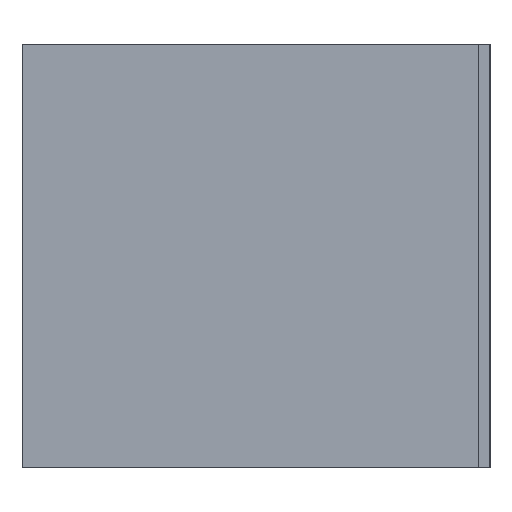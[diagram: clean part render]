
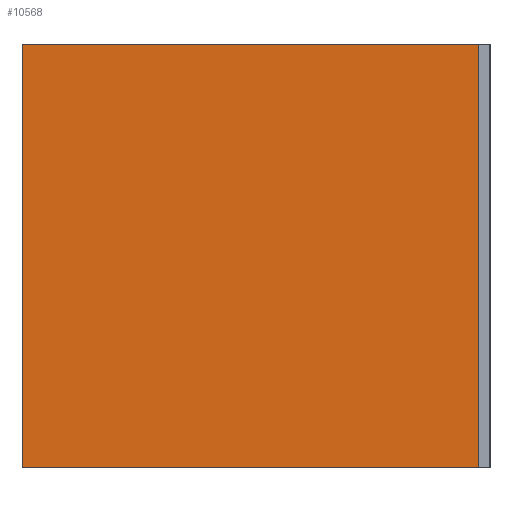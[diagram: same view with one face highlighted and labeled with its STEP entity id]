
A CAD part, left-side view. The second image highlights one B-rep face of the part: STEP entity #10568.
In plain terms, the highlighted planar face has unit normal (-1, 0, 0).
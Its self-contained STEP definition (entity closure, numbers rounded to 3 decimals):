
#34 = FACE_OUTER_BOUND ( 'NONE', #11758, .T. ) ;
#894 = DIRECTION ( 'NONE',  ( 0., 0., 1. ) ) ;
#998 = EDGE_CURVE ( 'NONE', #12781, #4134, #7265, .T. ) ;
#1022 = EDGE_CURVE ( 'NONE', #9691, #12781, #7230, .T. ) ;
#1026 = EDGE_CURVE ( 'NONE', #9250, #9691, #7219, .T. ) ;
#1042 = EDGE_CURVE ( 'NONE', #4134, #9250, #1308, .T. ) ;
#1308 = LINE ( 'NONE', #7758, #1339 ) ;
#1339 = VECTOR ( 'NONE', #9984, 1000. ) ;
#1771 = CARTESIAN_POINT ( 'NONE',  ( 0., 24.25, -22.5 ) ) ;
#3990 = CARTESIAN_POINT ( 'NONE',  ( 0., -24.25, -22.5 ) ) ;
#4134 = VERTEX_POINT ( 'NONE', #6520 ) ;
#4732 = AXIS2_PLACEMENT_3D ( 'NONE', #6561, #6549, #6529 ) ;
#4775 = CARTESIAN_POINT ( 'NONE',  ( 0., 24.25, 22.5 ) ) ;
#4834 = ORIENTED_EDGE ( 'NONE', *, *, #1026, .F. ) ;
#4973 = ORIENTED_EDGE ( 'NONE', *, *, #998, .F. ) ;
#5288 = CARTESIAN_POINT ( 'NONE',  ( 0., 24.25, -22.5 ) ) ;
#5678 = CARTESIAN_POINT ( 'NONE',  ( 0., 24.25, 22.5 ) ) ;
#6520 = CARTESIAN_POINT ( 'NONE',  ( 0., -24.25, 22.5 ) ) ;
#6529 = DIRECTION ( 'NONE',  ( 0., 0., -1. ) ) ;
#6549 = DIRECTION ( 'NONE',  ( -1., 0., 0. ) ) ;
#6561 = CARTESIAN_POINT ( 'NONE',  ( 0., -24.25, 22.5 ) ) ;
#6688 = PLANE ( 'NONE',  #4732 ) ;
#7131 = ORIENTED_EDGE ( 'NONE', *, *, #1022, .F. ) ;
#7219 = LINE ( 'NONE', #1771, #12019 ) ;
#7226 = CARTESIAN_POINT ( 'NONE',  ( 0., 24.25, -22.5 ) ) ;
#7230 = LINE ( 'NONE', #5288, #7243 ) ;
#7243 = VECTOR ( 'NONE', #894, 1000. ) ;
#7256 = VECTOR ( 'NONE', #12581, 1000. ) ;
#7265 = LINE ( 'NONE', #4775, #7256 ) ;
#7758 = CARTESIAN_POINT ( 'NONE',  ( 0., -24.25, -22.5 ) ) ;
#9250 = VERTEX_POINT ( 'NONE', #3990 ) ;
#9691 = VERTEX_POINT ( 'NONE', #7226 ) ;
#9900 = ORIENTED_EDGE ( 'NONE', *, *, #1042, .F. ) ;
#9984 = DIRECTION ( 'NONE',  ( 0., 0., -1. ) ) ;
#10568 = ADVANCED_FACE ( 'NONE', ( #34 ), #6688, .T. ) ;
#11758 = EDGE_LOOP ( 'NONE', ( #4973, #7131, #4834, #9900 ) ) ;
#12019 = VECTOR ( 'NONE', #13636, 1000. ) ;
#12581 = DIRECTION ( 'NONE',  ( 0., -1., 0. ) ) ;
#12781 = VERTEX_POINT ( 'NONE', #5678 ) ;
#13636 = DIRECTION ( 'NONE',  ( 0., 1., 0. ) ) ;
